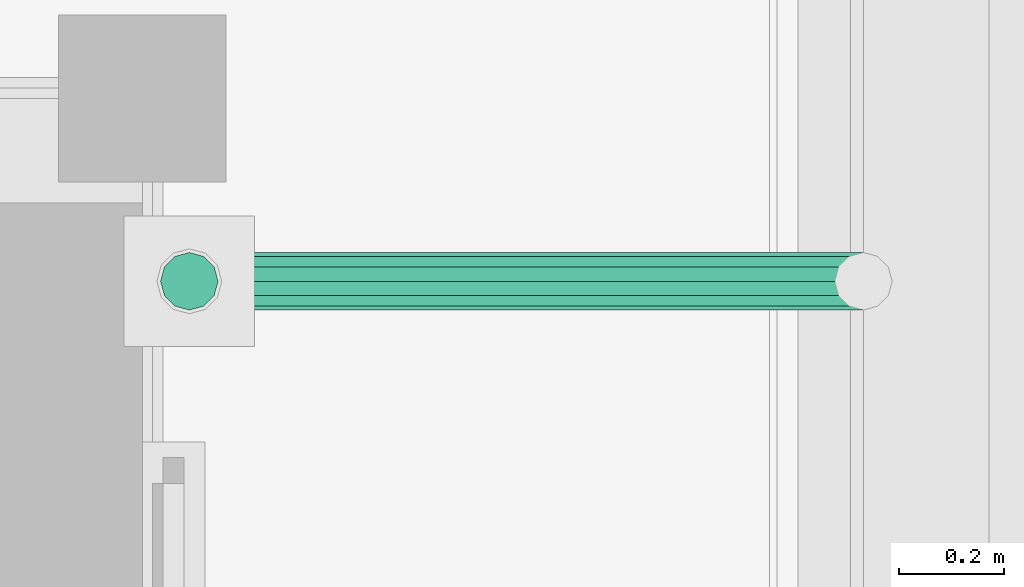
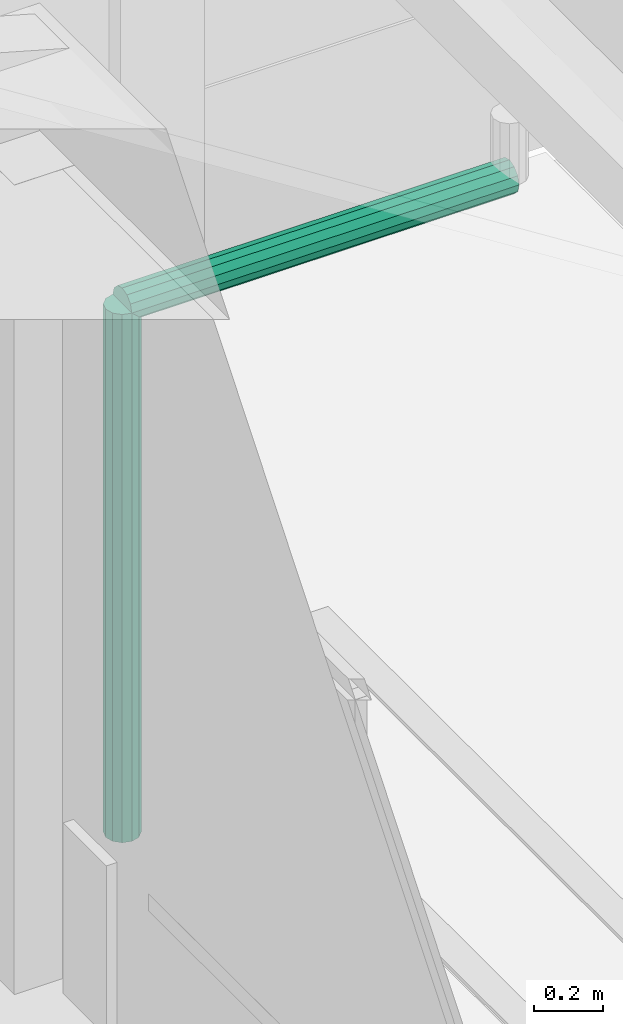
# One storey, part 116 of 177: 2 pipe segments.
"""IFC4 building model written with IfcOpenShell, lengths in metres."""

import ifcopenshell
import ifcopenshell.guid

model = None  # the IFC model being written
_history = None  # IfcOwnerHistory: only IFC2X3 demands one
_inside = {}  # id of a spatial element -> (the spatial element, [elements in it])
_under = {}  # id of a project, library or spatial element -> (it, [spatial elements below it])
_declared = {}  # id of a project -> (the project, [libraries it declares])
_typed = {}  # id of a type object -> (the type object, [elements of that type])
_made_of = {}  # id of a material, layer set ... -> (it, [elements and type objects made of it])


def new_model(schema):
    """Start an empty IFC model of exactly this schema.

    Asked for "IFC4X3", IfcOpenShell would pick the latest addendum, in which some entities
    have other attributes; the version numbers below select the first issue.
    IFC2X3 requires an IfcOwnerHistory on every rooted entity: one is made here for all.
    """
    global model, _history
    if schema == "IFC4X3":
        model = ifcopenshell.file(schema_version=(4, 3, 0, 0))
    else:
        model = ifcopenshell.file(schema=schema)
    _inside.clear()
    _under.clear()
    _declared.clear()
    _typed.clear()
    _made_of.clear()
    _history = None
    if model.schema == "IFC2X3":
        org = make("IfcOrganization", Name="unknown")
        user = make(
            "IfcPersonAndOrganization",
            ThePerson=make("IfcPerson", FamilyName="unknown"),
            TheOrganization=org,
        )
        app = make(
            "IfcApplication",
            ApplicationDeveloper=org,
            Version="unknown",
            ApplicationFullName="unknown",
            ApplicationIdentifier="unknown",
        )
        _history = make(
            "IfcOwnerHistory",
            OwningUser=user,
            OwningApplication=app,
            ChangeAction="ADDED",
            CreationDate=0,
        )
    return model


def make(cls, **values):
    """One entity of the class cls with the attributes given. An attribute that is None is left unset."""
    return model.create_entity(
        cls, **{name: value for name, value in values.items() if value is not None}
    )


def rooted(cls, **values):
    """An entity with a GlobalId (a new one), such as an element, a storey or a relation."""
    return make(cls, GlobalId=ifcopenshell.guid.new(), OwnerHistory=_history, **values)


def si_unit(unit_type, name, prefix=None):
    """IfcSIUnit, for example si_unit("LENGTHUNIT", "METRE", prefix="MILLI")."""
    return make("IfcSIUnit", UnitType=unit_type, Prefix=prefix, Name=name)


def assignment(units):
    """IfcUnitAssignment: the units of a project."""
    return None if units is None else make("IfcUnitAssignment", Units=units)


def point(xyz):
    """IfcCartesianPoint."""
    return None if xyz is None else make("IfcCartesianPoint", Coordinates=xyz)


def direction(xyz):
    """IfcDirection."""
    return None if xyz is None else make("IfcDirection", DirectionRatios=xyz)


def frame(location, z_axis=None, x_axis=None):
    """IfcAxis2Placement3D, a coordinate frame: its origin and axes. An axis left out is left unset."""
    return make(
        "IfcAxis2Placement3D",
        Location=point(location),
        Axis=direction(z_axis),
        RefDirection=direction(x_axis),
    )


def origin():
    """The frame at (0, 0, 0) with its axes left unset."""
    return frame((0.0, 0.0, 0.0))


def origin_with_axes():
    """The frame at (0, 0, 0) with the z axis (0, 0, 1) and the x axis (1, 0, 0) written out."""
    return frame((0.0, 0.0, 0.0), z_axis=(0.0, 0.0, 1.0), x_axis=(1.0, 0.0, 0.0))


def place(relative_to, where):
    """IfcLocalPlacement: puts the frame where relative to a parent placement (None: the world)."""
    return make(
        "IfcLocalPlacement", PlacementRelTo=relative_to, RelativePlacement=where
    )


def context(
    kind, dimensions, precision=None, world=None, true_north=None, identifier=None
):
    """IfcGeometricRepresentationContext, for example the 3D "Model" context."""
    return make(
        "IfcGeometricRepresentationContext",
        ContextIdentifier=identifier,
        ContextType=kind,
        CoordinateSpaceDimension=dimensions,
        Precision=precision,
        WorldCoordinateSystem=world,
        TrueNorth=true_north,
    )


def subcontext(parent, identifier, kind, view, scale=None):
    """IfcGeometricRepresentationSubContext, for example "Body" below "Model"."""
    return make(
        "IfcGeometricRepresentationSubContext",
        ContextIdentifier=identifier,
        ContextType=kind,
        ParentContext=parent,
        TargetScale=scale,
        TargetView=view,
    )


def project(units=None, contexts=None):
    """IfcProject with its units and contexts."""
    return rooted(
        "IfcProject",
        Name="project",
        RepresentationContexts=contexts,
        UnitsInContext=assignment(units),
    )


def spatial(cls, under=None, at=None, **own):
    """A site, building, storey or space (cls), placed at a placement, below another one or the project."""
    s = rooted(cls, ObjectPlacement=at, **own)
    if under is not None:
        _under.setdefault(under.id(), (under, []))[1].append(s)
    return s


def point_list(points):
    """IfcCartesianPointList2D or 3D."""
    cls = (
        "IfcCartesianPointList2D" if len(points[0]) == 2 else "IfcCartesianPointList3D"
    )
    return make(cls, CoordList=points)


def triangles(points, corners, closed=None, point_numbers=None):
    """IfcTriangulatedFaceSet: each triangle names its three corners, points numbered from 1."""
    return make(
        "IfcTriangulatedFaceSet",
        Coordinates=point_list(points),
        Closed=closed,
        CoordIndex=corners,
        PnIndex=point_numbers,
    )


def shape(context_of_items, identifier, shape_type, items):
    """IfcShapeRepresentation: the items that make up one representation, for example the "Body"."""
    return make(
        "IfcShapeRepresentation",
        ContextOfItems=context_of_items,
        RepresentationIdentifier=identifier,
        RepresentationType=shape_type,
        Items=items,
    )


def made_of(thing, what):
    """Note that an element or type object is made of a material, layer set ...; save() writes the relation."""
    if what is not None:
        _made_of.setdefault(what.id(), (what, []))[1].append(thing)
    return thing


def element(
    cls,
    number,
    at=None,
    inside=None,
    cuts=None,
    type_object=None,
    material=None,
    context=None,
    identifier="Body",
    shape_type=None,
    held_by="IfcProductDefinitionShape",
    body=None,
    shapes=None,
    **own,
):
    """One element of the class cls, such as IfcWall. Its Tag is "e" and its number.

    at: its placement. inside: the storey or other place that contains it. cuts: it is an
    opening in that element (IfcRelVoidsElement). A single representation is given by context,
    identifier, shape_type and body (its items); several are given by shapes. held_by: the class
    of the entity that holds the representations. save() writes the other relations.
    """
    e = rooted(cls, Tag="e%d" % number, ObjectPlacement=at, **own)
    if body is not None:
        shapes = [shape(context, identifier, shape_type, body)]
    if shapes is not None:
        e.Representation = make(held_by, Representations=shapes)
    if inside is not None:
        _inside.setdefault(inside.id(), (inside, []))[1].append(e)
    if cuts is not None:
        rooted(
            "IfcRelVoidsElement", RelatingBuildingElement=cuts, RelatedOpeningElement=e
        )
    if type_object is not None:
        _typed.setdefault(type_object.id(), (type_object, []))[1].append(e)
    return made_of(e, material)


def aggregate(whole, parts):
    """IfcRelAggregates: a whole, such as a stair, and the parts it consists of."""
    return rooted("IfcRelAggregates", RelatingObject=whole, RelatedObjects=parts)


def save(model, path):
    """Write the relations noted so far, then the file.

    IfcRelAggregates (storeys below a building ...), IfcRelContainedInSpatialStructure (elements
    in a storey), IfcRelDefinesByType, IfcRelAssociatesMaterial and IfcRelDeclares: one each for
    every whole, place, type object, material and project.
    """
    for whole, parts in _under.values():
        aggregate(whole, parts)
    for where, things in _inside.values():
        rooted(
            "IfcRelContainedInSpatialStructure",
            RelatedElements=things,
            RelatingStructure=where,
        )
    for kind, things in _typed.values():
        rooted("IfcRelDefinesByType", RelatedObjects=things, RelatingType=kind)
    for what, things in _made_of.values():
        rooted("IfcRelAssociatesMaterial", RelatedObjects=things, RelatingMaterial=what)
    for by, libraries in _declared.values():
        rooted("IfcRelDeclares", RelatingContext=by, RelatedDefinitions=libraries)
    model.write(path)


model = new_model("IFC4")

# Units and contexts
model_context = context("Model", 3, precision=1e-05, world=origin_with_axes())
body_context = subcontext(model_context, "Body", "Model", "MODEL_VIEW")
ifc_project = project(units=[si_unit("LENGTHUNIT", "METRE"), si_unit("AREAUNIT", "SQUARE_METRE"), si_unit("VOLUMEUNIT", "CUBIC_METRE"), si_unit("PLANEANGLEUNIT", "RADIAN")], contexts=[model_context])

# Site, building, storey
site_placement = place(None, origin_with_axes())
site = spatial("IfcSite", under=ifc_project, at=site_placement, Name="Predio Los Mangos - Morales, San Martín", CompositionType="ELEMENT")
building_placement = place(site_placement, origin())
building = spatial("IfcBuilding", under=site, at=building_placement, Name="Hogar de Refugio Temporal", CompositionType="ELEMENT")
storey_placement = place(building_placement, origin())
storey = spatial("IfcBuildingStorey", under=building, at=storey_placement, Name="NIVEL 1 (NPT +0.00)", CompositionType="ELEMENT", Elevation=0.0)

# Pipe segments
pipe_segment_1_placement = place(storey_placement, origin())
element("IfcPipeSegment", 1, at=pipe_segment_1_placement, inside=storey, Name="montante_desvio", ObjectType="Montante PVC 4\"", PredefinedType="RIGIDSEGMENT", context=body_context, shape_type="Tessellation", body=[
    triangles([(67.88, 127.45, 2.965), (66.59, 127.45, 2.965), (67.88, 127.4225, 2.9576), (66.59, 127.4225, 2.9576), (67.88, 127.4024, 2.9375), (66.59, 127.4024, 2.9375), (67.88, 127.395, 2.91), (66.59, 127.395, 2.91), (67.88, 127.4024, 2.8825), (66.59, 127.4024, 2.8825), (67.88, 127.4225, 2.8624), (66.59, 127.4225, 2.8624), (67.88, 127.45, 2.855), (66.59, 127.45, 2.855), (67.88, 127.4775, 2.8624), (66.59, 127.4775, 2.8624), (67.88, 127.4976, 2.8825), (66.59, 127.4976, 2.8825), (67.88, 127.505, 2.91), (66.59, 127.505, 2.91), (67.88, 127.4976, 2.9375), (66.59, 127.4976, 2.9375), (67.88, 127.4775, 2.9576), (66.59, 127.4775, 2.9576)], [[1, 2, 4], [1, 4, 3], [3, 4, 6], [3, 6, 5], [5, 6, 8], [5, 8, 7], [7, 8, 10], [7, 10, 9], [9, 10, 12], [9, 12, 11], [11, 12, 14], [11, 14, 13], [13, 14, 16], [13, 16, 15], [15, 16, 18], [15, 18, 17], [17, 18, 20], [17, 20, 19], [19, 20, 22], [19, 22, 21], [6, 4, 2], [2, 24, 22], [22, 20, 18], [18, 16, 14], [14, 12, 10], [10, 8, 6], [6, 2, 22], [22, 18, 14], [14, 10, 6], [22, 14, 6], [21, 22, 24], [21, 24, 23], [23, 24, 2], [23, 2, 1], [23, 1, 3], [3, 5, 7], [7, 9, 11], [11, 13, 15], [15, 17, 19], [19, 21, 23], [23, 3, 7], [7, 11, 15], [15, 19, 23], [7, 15, 23]]),
])
pipe_segment_2_placement = place(storey_placement, origin())
element("IfcPipeSegment", 2, at=pipe_segment_2_placement, inside=storey, Name="montante_bajada", ObjectType="Montante PVC 4\"", PredefinedType="RIGIDSEGMENT", context=body_context, shape_type="Tessellation", body=[
    triangles([(66.59, 127.505, 2.91), (66.59, 127.505, 1.05), (66.5625, 127.4976, 2.91), (66.5625, 127.4976, 1.05), (66.5424, 127.4775, 2.91), (66.5424, 127.4775, 1.05), (66.535, 127.45, 2.91), (66.535, 127.45, 1.05), (66.5424, 127.4225, 2.91), (66.5424, 127.4225, 1.05), (66.5625, 127.4024, 2.91), (66.5625, 127.4024, 1.05), (66.59, 127.395, 2.91), (66.59, 127.395, 1.05), (66.6175, 127.4024, 2.91), (66.6175, 127.4024, 1.05), (66.6376, 127.4225, 2.91), (66.6376, 127.4225, 1.05), (66.645, 127.45, 2.91), (66.645, 127.45, 1.05), (66.6376, 127.4775, 2.91), (66.6376, 127.4775, 1.05), (66.6175, 127.4976, 2.91), (66.6175, 127.4976, 1.05)], [[1, 2, 4], [1, 4, 3], [3, 4, 6], [3, 6, 5], [5, 6, 8], [5, 8, 7], [7, 8, 10], [7, 10, 9], [9, 10, 12], [9, 12, 11], [11, 12, 14], [11, 14, 13], [13, 14, 16], [13, 16, 15], [15, 16, 18], [15, 18, 17], [17, 18, 20], [17, 20, 19], [19, 20, 22], [19, 22, 21], [6, 4, 2], [2, 24, 22], [22, 20, 18], [18, 16, 14], [14, 12, 10], [10, 8, 6], [6, 2, 22], [22, 18, 14], [14, 10, 6], [22, 14, 6], [21, 22, 24], [21, 24, 23], [23, 24, 2], [23, 2, 1], [23, 1, 3], [3, 5, 7], [7, 9, 11], [11, 13, 15], [15, 17, 19], [19, 21, 23], [23, 3, 7], [7, 11, 15], [15, 19, 23], [7, 15, 23]]),
])

save(model, "model.ifc")
